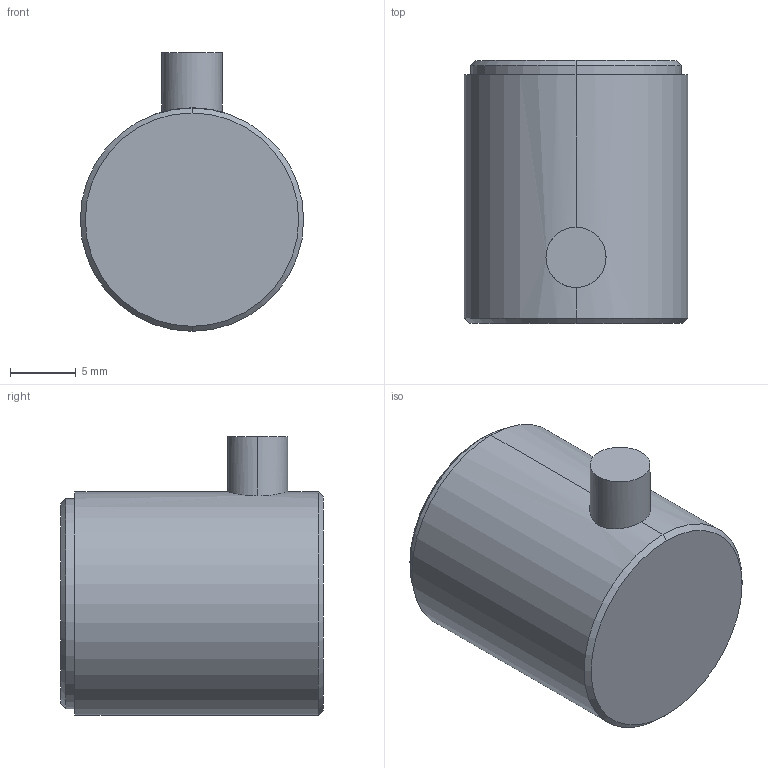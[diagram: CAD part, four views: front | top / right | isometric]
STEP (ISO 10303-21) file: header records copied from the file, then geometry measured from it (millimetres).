
FILE_DESCRIPTION (( 'STEP AP203' ), '1' );
FILE_NAME ('FINAL ASBY SS1641-52.5KN.STEP', '2022-12-06T14:19:42', ( '' ), ( '' ), 'SwSTEP 2.0', 'SolidWorks 2008', '' );
FILE_SCHEMA (( 'CONFIG_CONTROL_DESIGN' ));
Length unit declared in the file: inch
Products named in the file (1): FINAL ASBY SS1641-52.5KN
Bounding box: 16.99 x 19.99 x 21.2 mm (x, y, z)
Volume: 3872.1 mm3; surface area: 2552.7 mm2
Topology: 1 solids, 2 shells, 20 faces, 41 edges, 26 vertices
Faces by surface type: cylinder 10, plane 6, cone 4
Entity records: 668 total; most frequent: CARTESIAN_POINT 148, DIRECTION 101, ORIENTED_EDGE 82, AXIS2_PLACEMENT_3D 43, EDGE_CURVE 41, VERTEX_POINT 26, EDGE_LOOP 23, CIRCLE 22
